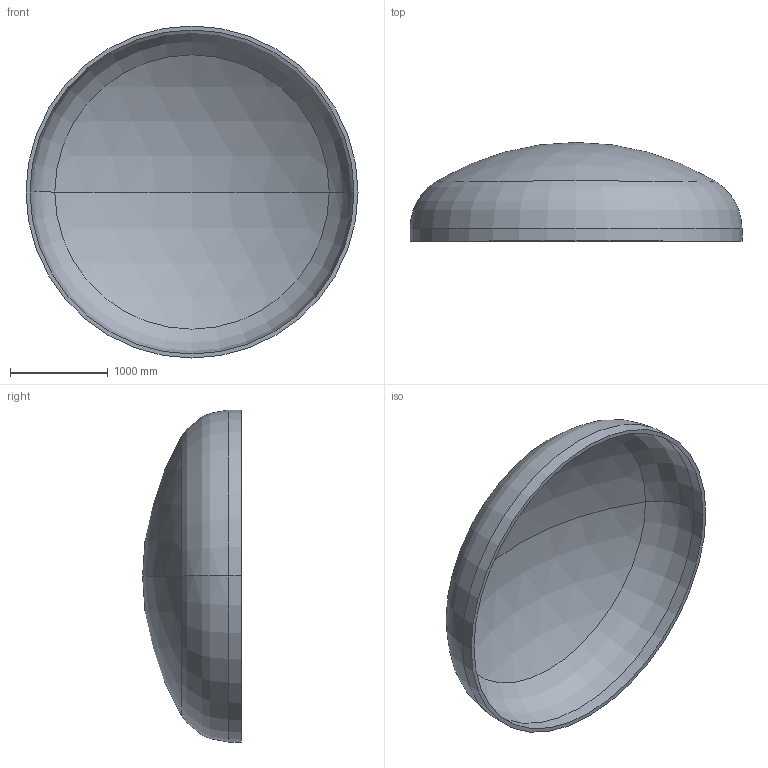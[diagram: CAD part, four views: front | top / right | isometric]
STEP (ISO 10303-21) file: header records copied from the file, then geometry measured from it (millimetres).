
FILE_DESCRIPTION (( 'STEP AP203' ), '1' );
FILE_NAME ('DIN 28013 Korbbogenform_-_Boden DIN 28013 - 3400 x 130 - I - s=41.step', '2016-07-01T19:29:47', ( '' ), ( '' ), 'SwSTEP 2.0', 'SolidWorks 2013', '' );
FILE_SCHEMA (( 'CONFIG_CONTROL_DESIGN' ));
Length unit declared in the file: millimetre
Products named in the file (1): DIN 28013 Korbbogenform_-_Boden DIN 28013 - 3400 x 130 - I - s=41
Bounding box: 3400 x 1011.62 x 3400 mm (x, y, z)
Volume: 563914737.1 mm3; surface area: 27944203.9 mm2
Topology: 1 solids, 1 shells, 13 faces, 24 edges, 14 vertices
Faces by surface type: torus 4, cylinder 4, sphere 4, plane 1
Entity records: 407 total; most frequent: DIRECTION 72, CARTESIAN_POINT 52, ORIENTED_EDGE 48, AXIS2_PLACEMENT_3D 34, EDGE_CURVE 24, CIRCLE 20, VERTEX_POINT 14, EDGE_LOOP 14
